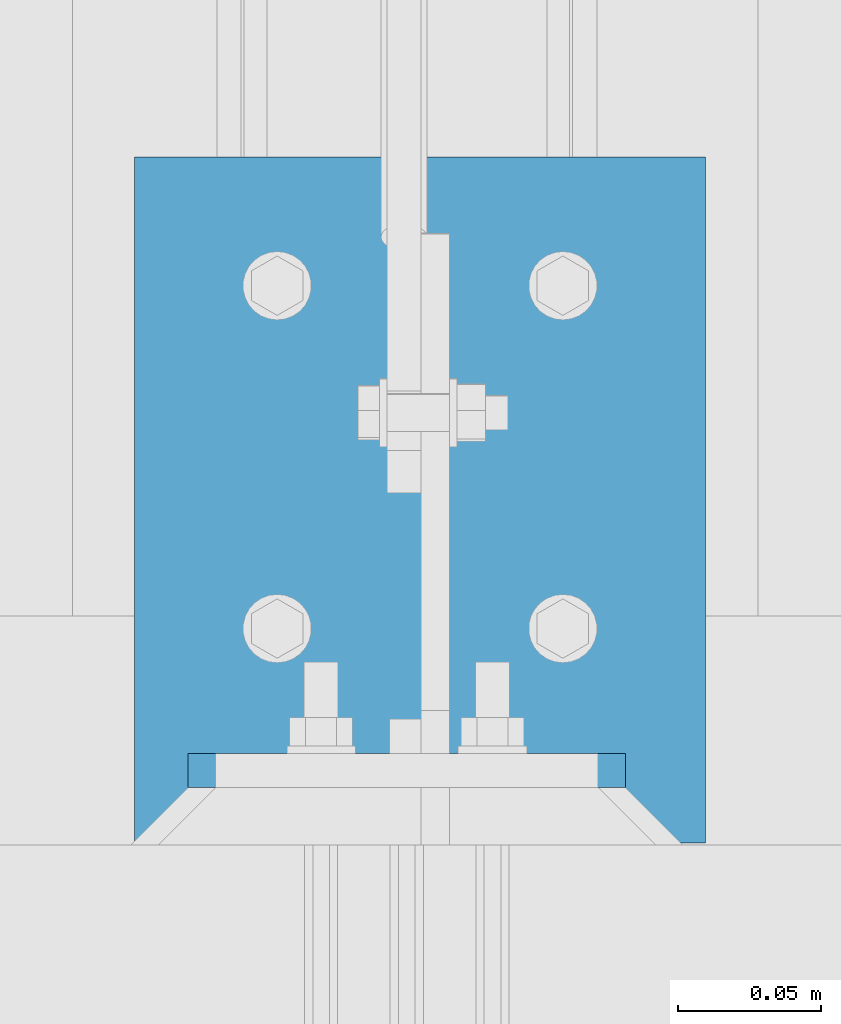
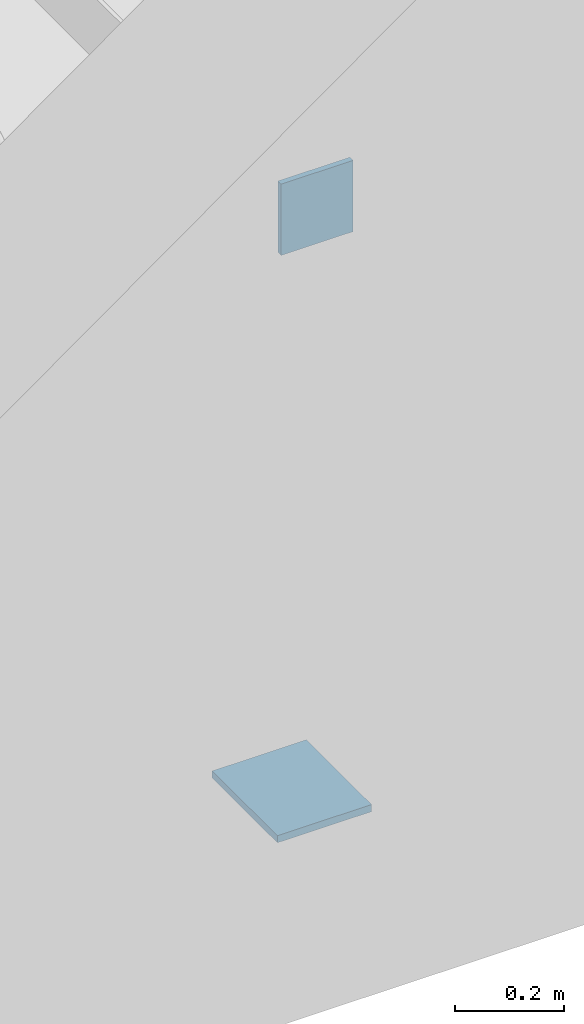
# One storey, part 65 of 271: 2 beams, 2 elements without a shape of their own.
"""IFC2X3 building model written with IfcOpenShell, lengths in millimetres."""

from ifc_helpers import new_model, si_unit, frame, origin_with_axes, origin_2d_with_axis, place, context, subcontext, project, spatial, rectangle, extrude, material, type_object, element, aggregate, save


model = new_model("IFC2X3")

# Units and contexts
model_context = context("Model", 3, precision=1e-05, world=origin_with_axes())
body_context = subcontext(model_context, "Body", "Model", "MODEL_VIEW")
ifc_project = project(units=[si_unit("LENGTHUNIT", "METRE", prefix="MILLI"), si_unit("AREAUNIT", "SQUARE_METRE"), si_unit("VOLUMEUNIT", "CUBIC_METRE"), si_unit("MASSUNIT", "GRAM", prefix="KILO"), si_unit("TIMEUNIT", "SECOND"), si_unit("PLANEANGLEUNIT", "RADIAN"), si_unit("SOLIDANGLEUNIT", "STERADIAN"), si_unit("THERMODYNAMICTEMPERATUREUNIT", "DEGREE_CELSIUS"), si_unit("LUMINOUSINTENSITYUNIT", "LUMEN")], contexts=[model_context])

# Site, building, storey
site_placement = place(None, origin_with_axes())
site = spatial("IfcSite", under=ifc_project, at=site_placement, Name="Undefined", CompositionType="ELEMENT")
building_placement = place(site_placement, origin_with_axes())
building = spatial("IfcBuilding", under=site, at=building_placement, Name="Undefined", CompositionType="ELEMENT")
storey_placement = place(building_placement, origin_with_axes())
storey = spatial("IfcBuildingStorey", under=building, at=storey_placement, Name="Undefined", CompositionType="ELEMENT", Elevation=0.0)

# Assembly, beam
assembly_1_placement = place(storey_placement, origin_with_axes())
assembly_1 = element("IfcElementAssembly", 1, at=assembly_1_placement, inside=storey, Name="BELKA", AssemblyPlace="NOTDEFINED", PredefinedType="RIGID_FRAME")
ifc_material = material(Name="STEEL/S355JR")
beam_type_1 = type_object("IfcBeamType", Name="PL240*16", PredefinedType="NOTDEFINED")
beam_1_placement = place(assembly_1_placement, frame((6253.0, 120.0, -8.0), z_axis=(0.0, -1.0, 0.0), x_axis=(1.0, 0.0, 0.0)))
beam_1 = element("IfcBeam", 2, at=beam_1_placement, type_object=beam_type_1, material=ifc_material, Name="BELKA", ObjectType="PL240*16", context=body_context, shape_type="SweptSolid", body=[
    extrude(rectangle(XDim=16.0, YDim=240.0, at=origin_2d_with_axis()), frame((200.0, 0.0, 0.0), z_axis=(-1.0, 0.0, 1.38777878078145e-17), x_axis=(0.0, -1.0, 0.0)), (0.0, 0.0, 1.0), 200.0),
])
aggregate(assembly_1, [beam_1])

assembly_2_placement = place(storey_placement, origin_with_axes())
assembly_2 = element("IfcElementAssembly", 3, at=assembly_2_placement, inside=storey, AssemblyPlace="NOTDEFINED", PredefinedType="RIGID_FRAME")
beam_type_2 = type_object("IfcBeamType", Name="BL12*160", PredefinedType="NOTDEFINED")
beam_2_placement = place(assembly_2_placement, frame((6271.87568709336, 25.3249842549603, 1364.34999990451), z_axis=(0.0, 0.0, -1.0), x_axis=(1.0, 0.0, 0.0)))
beam_2 = element("IfcBeam", 4, at=beam_2_placement, type_object=beam_type_2, material=ifc_material, Name="BLACHA_PODSTAWY", ObjectType="BL12*160", context=body_context, shape_type="SweptSolid", body=[
    extrude(rectangle(XDim=12.0, YDim=160.0, at=origin_2d_with_axis()), frame((153.0, 0.0, 0.0), z_axis=(-1.0, 0.0, 1.38777878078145e-17), x_axis=(0.0, -1.0, 0.0)), (0.0, 0.0, 1.0), 153.0),
])
aggregate(assembly_2, [beam_2])

save(model, "model.ifc")
